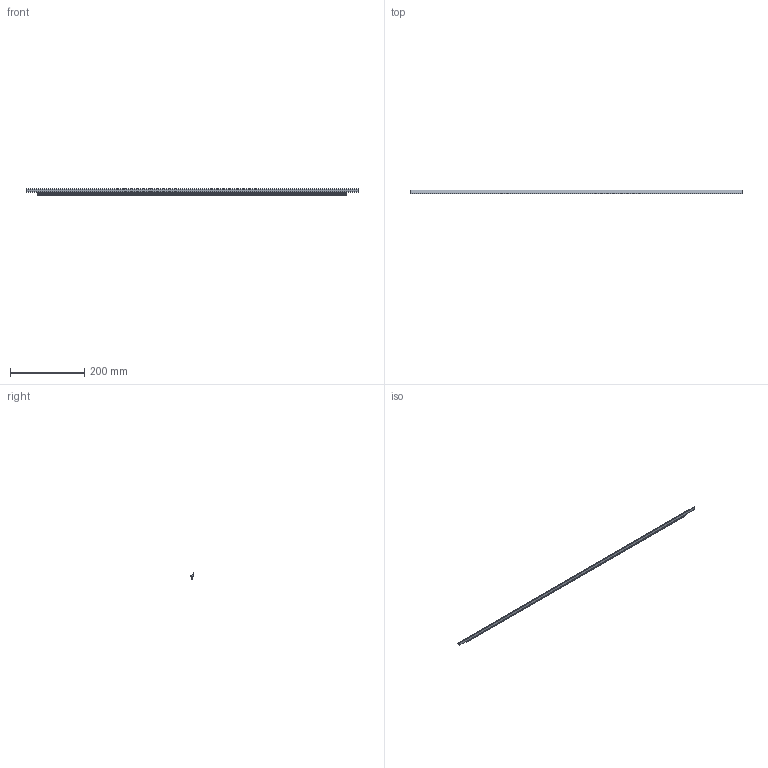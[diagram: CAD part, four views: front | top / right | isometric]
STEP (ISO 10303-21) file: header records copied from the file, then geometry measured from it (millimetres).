
FILE_DESCRIPTION( ( 'STEP AP214' ), '1' );
FILE_NAME( 'C:/Users/KOSH/Desktop/2021/Sunil/New folder/9208103.stp', '2021-11-15T12:58:31', ( '' ), ( '' ), ' ', 'PARTsolutions', ' ' );
FILE_SCHEMA( ( 'AUTOMOTIVE_DESIGN { 1 0 10303 214 1 1 1 1 }' ) );
Length unit declared in the file: millimetre
Products named in the file (1): _9208103
Bounding box: 895 x 10.48 x 16.5 mm (x, y, z)
Volume: 48798.7 mm3; surface area: 45541.9 mm2
Topology: 1 solids, 1 shells, 29 faces, 78 edges, 52 vertices
Faces by surface type: plane 25, cylinder 4
Entity records: 1148 total; most frequent: CARTESIAN_POINT 160, ORIENTED_EDGE 156, DIRECTION 146, EDGE_CURVE 78, LINE 70, VECTOR 70, VERTEX_POINT 52, AXIS2_PLACEMENT_3D 38
